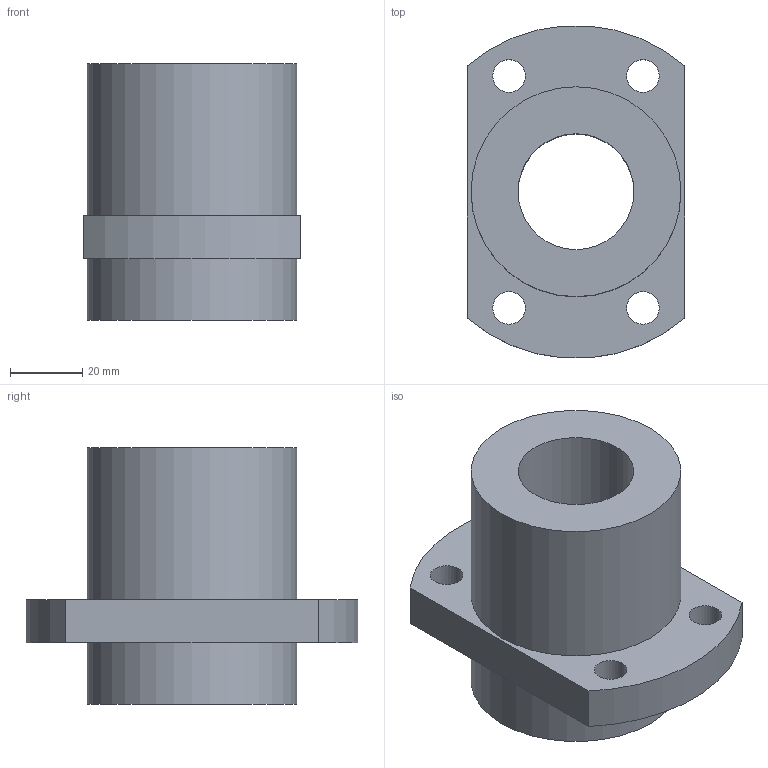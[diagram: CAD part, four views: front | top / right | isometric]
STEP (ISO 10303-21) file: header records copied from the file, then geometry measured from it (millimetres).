
FILE_DESCRIPTION(('STEP AP214'), '1');
FILE_NAME('Ãàéêà ØÂÏ SFE3232-TBI', '', ('UNSPECIFIED'), ('UNSPECIFIED'), 'ASCON STEP Converter 1.6', 'ASCON Math Kernel', '');
FILE_SCHEMA(('AUTOMOTIVE_DESIGN { 1 0 10303 214 3 1 1}'));
Length unit declared in the file: millimetre
Bounding box: 60 x 91.71 x 71 mm (x, y, z)
Volume: 156914.1 mm3; surface area: 30568.2 mm2
Topology: 1 solids, 1 shells, 15 faces, 33 edges, 22 vertices
Faces by surface type: cylinder 9, plane 6
Full cylindrical faces by diameter (mm): 9 x4, 32 x1, 58 x2
Entity records: 574 total; most frequent: DIRECTION 76, CARTESIAN_POINT 64, ORIENTED_EDGE 52, AXIS2_PLACEMENT_3D 34, EDGE_LOOP 34, EDGE_CURVE 26, VERTEX_POINT 22, FACE_BOUND 20
